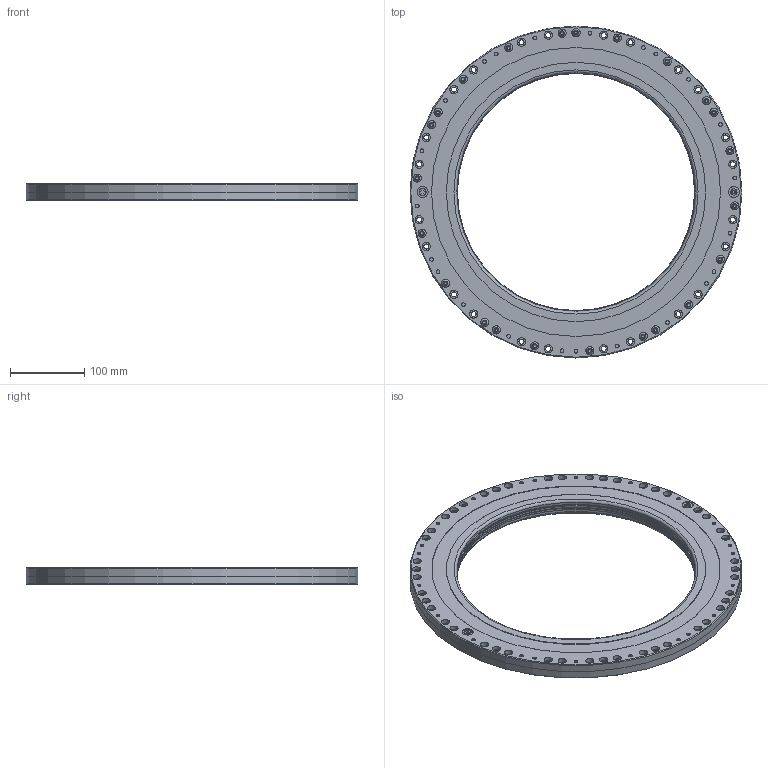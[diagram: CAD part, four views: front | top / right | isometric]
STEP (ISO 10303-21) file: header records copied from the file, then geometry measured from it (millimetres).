
FILE_DESCRIPTION(/* description */ ('Unknown'),/* implementation_level */ '2;1');
FILE_NAME(/* name */ '10035574_RC 320 N_6bar+booster',/* time_stamp */ '2025-08-05T15:33:51+02:00',/* author */ ('Unknown'),/* organization */ ('Unknown'),/* preprocessor_version */ 'ST-DEVELOPER v19.4',/* originating_system */ 'Solid Edge',/* authorisation */ 'Unknown');
FILE_SCHEMA (('CONFIG_CONTROL_DESIGN'));
Length unit declared in the file: millimetre
Products named in the file (7): 10035574; Linsenkopfschraube ISO 7380 TX M6 x 14 Ph 012.9; 34-06-0051-e001; 34-00-0029-e001; 34-06-0064-e001; Verschlussschraube G1;8 x 4,5; Gewindestift DIN 913 - M6x4 VA
Assembly tree (54 placements, depth 2):
  10035574
    Linsenkopfschraube ISO 7380 TX M6 x 14 Ph 012.9  x46
    34-06-0051-e001
    34-00-0029-e001  x2
    34-06-0064-e001
    Verschlussschraube G1;8 x 4,5  x3
    Gewindestift DIN 913 - M6x4 VA
Bounding box: 448 x 448 x 22.4 mm (x, y, z)
Volume: 1578603.7 mm3; surface area: 420060.9 mm2
Topology: 54 solids, 54 shells, 2427 faces, 5804 edges, 3623 vertices
Faces by surface type: cylinder 1495, cone 394, plane 301, torus 191, sphere 46
Full cylindrical faces by diameter (mm): 1.5 x5, 4.917 x47, 5.6 x46, 6 x94, 6.8 x95, 7.4 x1, 8.4 x1, 8.566 x4, 9.728 x4, 10.5 x46, 11 x96, 15 x4, 320 x2, 323.45 x2, 350 x2, 390 x2, 448 x2
Entity records: 12065 total; most frequent: CARTESIAN_POINT 2712, DIRECTION 1448, ORIENTED_EDGE 1142, FACE_BOUND 708, EDGE_LOOP 706, AXIS2_PLACEMENT_3D 673, EDGE_CURVE 571, VERTEX_POINT 469
